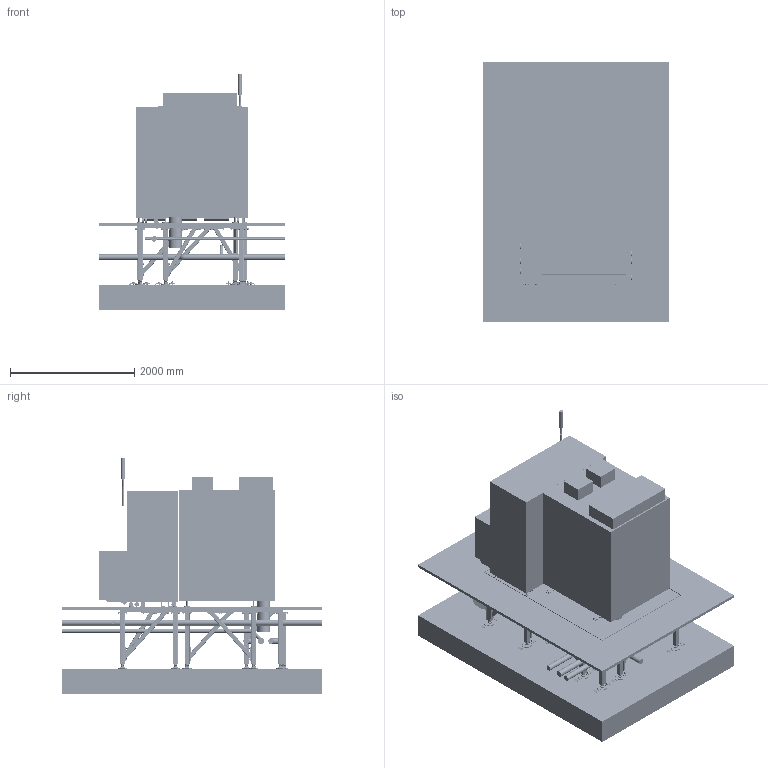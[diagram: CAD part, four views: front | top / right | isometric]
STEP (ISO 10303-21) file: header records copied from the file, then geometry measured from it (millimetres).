
FILE_DESCRIPTION (( 'STEP AP214' ), '1' );
FILE_NAME ('FAU-MALTAIR02-00 IMPLANTATION.STEP', '2025-01-19T11:26:17', ( '' ), ( '' ), 'SwSTEP 2.0', 'SolidWorks 2017', '' );
FILE_SCHEMA (( 'AUTOMOTIVE_DESIGN' ));
Length unit declared in the file: millimetre
Products named in the file (44): Z M10 assy; z_vis H_vis H M10x120; zz-M12 ASSY_M10-94.4; zz-Vis H M12_vis H M12-110; FAU-MALTAIR02-03-04; zz-z_NUT_H_NUT H M 10; FAU-MALTAIR02-05 pied assy_2 court court; FAU-MALTAIR02-07 SUPPORT M36_DWG; FAU-MALTAIR02-05 spe PIEDS_1-1<Brut d''usinage>; FAU-MALTAIR02-05 pied assy_1 court; FAU-MALTAIR02-FAUX-PLANCHER; Z-cacher; Z Washer_WASHER M 10; FAU-MALTAIR02-05 pied assy_1; ESQ; FAU-MALTAIR02-02_D‚faut<Brut d''usinage>; FAU-MALTAIR02-07 SUPPORT M36; Z Screw_H_SCREW H M10x30-26; FAU-MALTAIR02-05 PIEDS_1<Brut d''usinage>; FAU-MALTAIR02-06 CONTREVENEMENT_2<Brut d''usinage>; FAU-MALTAIR02-05 pied assy_0; FAU-MALTAIR02-MACHINE; Z vis h _m36x140; Z-Hilti_Cheville segments HSA M16x137; FAU-MALTAIR02-TUBE-v2; FAU-MALTAIR02-05 PIEDS_0<Brut d''usinage>; FAU-MALTAIR02-00 IMPLANTATION; FAU-MALTAIR02-05 PIEDS_2<Brut d''usinage>; FAU-MALTAIR02-05 pied assy_2; FAU-MALTAIR02-08; FAU-MALTAIR02-05 pied assy v2_2 spe; FAU-MALTAIR02-DALLE; FAU-MALTAIR02-06 CONTREVENEMENT_3<Brut d''usinage>; FAU-MALTAIR02-10_M16; Z-ecrou_din934_m36-10; FAU-MALTAIR02-01; zz_Washer_WASHER Z 12; zz-z_NUT_H_NUT H M 12; FAU-MALTAIR02-06 CONTREVENEMENT_1<Brut d''usinage>; zz-M12 ASSY_M12-90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
Assembly tree (240 placements, depth 5):
  ESQ
  FAU-MALTAIR02-00 IMPLANTATION
    FAU-MALTAIR02-DALLE
    FAU-MALTAIR02-FAUX-PLANCHER
    FAU-MALTAIR02-01
      FAU-MALTAIR02-MACHINE
      FAU-MALTAIR02-03-04
      FAU-MALTAIR02-03-04_INOX
      FAU-MALTAIR02-02_D‚faut<Brut d''usinage>
      FAU-MALTAIR02-10_M16
        Z-cacher
        FAU-MALTAIR02-08  x2
        Z-Hilti_Cheville segments HSA M16x137  x2
      FAU-MALTAIR02-05 pied assy_2  x2
        FAU-MALTAIR02-05 PIEDS_1<Brut d''usinage>
        Z M10 assy
          Z Screw_H_SCREW H M10x30-26
          Z Washer_WASHER M 10
        FAU-MALTAIR02-06 CONTREVENEMENT_1<Brut d''usinage>
        FAU-MALTAIR02-07 SUPPORT M36_DWG
          Z vis h _m36x140
          Z-ecrou_din934_m36-10
          FAU-MALTAIR02-07 SUPPORT M36
      FAU-MALTAIR02-05 pied assy_1 court  x2
        FAU-MALTAIR02-05 PIEDS_2<Brut d''usinage>
        Z M10 assy
          Z Screw_H_SCREW H M10x30-26
          Z Washer_WASHER M 10
        FAU-MALTAIR02-06 CONTREVENEMENT_2<Brut d''usinage>
        FAU-MALTAIR02-07 SUPPORT M36_DWG
          Z vis h _m36x140
          Z-ecrou_din934_m36-10
          FAU-MALTAIR02-07 SUPPORT M36
      FAU-MALTAIR02-05 pied assy_1  x3
        FAU-MALTAIR02-05 PIEDS_2<Brut d''usinage>
        Z M10 assy
          Z Screw_H_SCREW H M10x30-26
          Z Washer_WASHER M 10
        FAU-MALTAIR02-06 CONTREVENEMENT_1<Brut d''usinage>
        FAU-MALTAIR02-07 SUPPORT M36_DWG
          Z vis h _m36x140
          Z-ecrou_din934_m36-10
          FAU-MALTAIR02-07 SUPPORT M36
      FAU-MALTAIR02-05 pied assy_0  x3
        FAU-MALTAIR02-05 PIEDS_0<Brut d''usinage>
        FAU-MALTAIR02-07 SUPPORT M36_DWG
          Z vis h _m36x140
          Z-ecrou_din934_m36-10
          FAU-MALTAIR02-07 SUPPORT M36
      FAU-MALTAIR02-05 pied assy v2_2 spe
        FAU-MALTAIR02-05 spe PIEDS_1-1<Brut d''usinage>
        FAU-MALTAIR02-06 CONTREVENEMENT_3<Brut d''usinage>
        FAU-MALTAIR02-07 SUPPORT M36_DWG
          Z vis h _m36x140
          Z-ecrou_din934_m36-10
          FAU-MALTAIR02-07 SUPPORT M36
        Z M10 assy  x8
          Z Screw_H_SCREW H M10x30-26
          Z Washer_WASHER M 10
      FAU-MALTAIR02-10_M16  x11
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Bounding box: 3000 x 4200 x 3789.93 mm (x, y, z)
Volume: 12544989966.9 mm3; surface area: 139534353.9 mm2
Topology: 820 solids, 844 shells, 11943 faces, 28060 edges, 18067 vertices
Faces by surface type: plane 5154, cylinder 4505, cone 2080, bspline 196, torus 8
Entity records: 101933 total; most frequent: CARTESIAN_POINT 18676, DIRECTION 16809, ORIENTED_EDGE 15240, EDGE_CURVE 7620, AXIS2_PLACEMENT_3D 6321, VERTEX_POINT 5001, VECTOR 4167, LINE 4167
